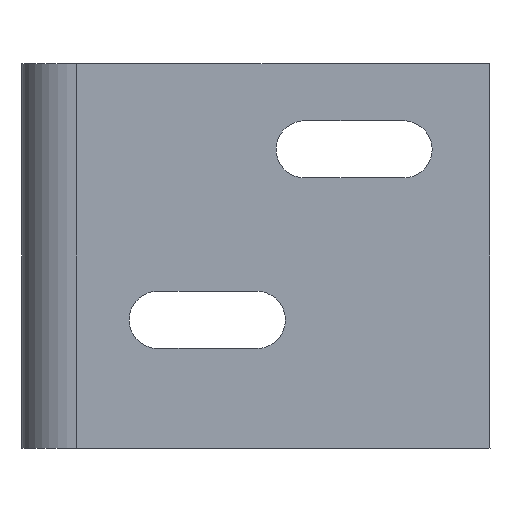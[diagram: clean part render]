
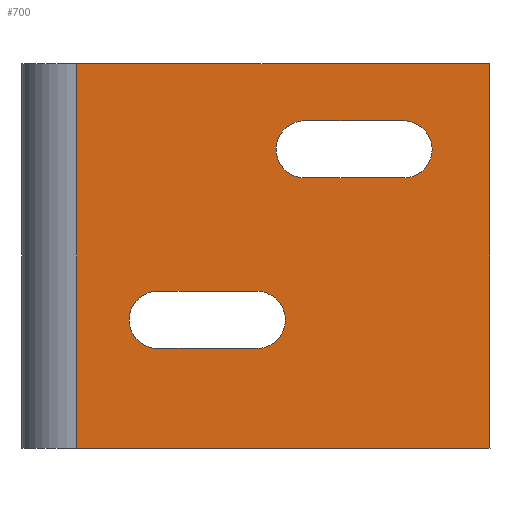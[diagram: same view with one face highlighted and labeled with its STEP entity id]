
A CAD part, left-side view. The second image highlights one B-rep face of the part: STEP entity #700.
In plain terms, the highlighted free-form (B-spline) face has degree [1, 1] with [2, 2] control points.
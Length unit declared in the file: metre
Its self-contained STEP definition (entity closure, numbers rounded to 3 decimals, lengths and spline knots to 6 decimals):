
#22=LINE('',#1048,#80);
#26=LINE('',#1064,#84);
#32=LINE('',#1084,#90);
#38=LINE('',#1113,#96);
#39=LINE('',#1117,#97);
#40=LINE('',#1121,#98);
#41=LINE('',#1125,#99);
#42=LINE('',#1126,#100);
#80=VECTOR('',#815,1.);
#84=VECTOR('',#825,1.);
#90=VECTOR('',#833,1.);
#96=VECTOR('',#849,1.);
#97=VECTOR('',#852,1.);
#98=VECTOR('',#855,1.);
#99=VECTOR('',#858,1.);
#100=VECTOR('',#859,1.);
#133=B_SPLINE_SURFACE_WITH_KNOTS('',1,1,((#1106,#1107),(#1108,#1109)),
 .PLANE_SURF.,.F.,.F.,.F.,(2,2),(2,2),(0.,1.),(0.,1.),.UNSPECIFIED.);
#246=ORIENTED_EDGE('',*,*,#416,.T.);
#247=ORIENTED_EDGE('',*,*,#417,.T.);
#248=ORIENTED_EDGE('',*,*,#418,.T.);
#249=ORIENTED_EDGE('',*,*,#419,.F.);
#250=ORIENTED_EDGE('',*,*,#420,.T.);
#251=ORIENTED_EDGE('',*,*,#421,.T.);
#252=ORIENTED_EDGE('',*,*,#422,.T.);
#253=ORIENTED_EDGE('',*,*,#423,.F.);
#254=ORIENTED_EDGE('',*,*,#406,.F.);
#255=ORIENTED_EDGE('',*,*,#392,.T.);
#256=ORIENTED_EDGE('',*,*,#424,.F.);
#257=ORIENTED_EDGE('',*,*,#399,.T.);
#392=EDGE_CURVE('',#486,#485,#22,.T.);
#399=EDGE_CURVE('',#491,#490,#26,.T.);
#406=EDGE_CURVE('',#486,#490,#32,.T.);
#416=EDGE_CURVE('',#504,#505,#552,.T.);
#417=EDGE_CURVE('',#505,#506,#38,.T.);
#418=EDGE_CURVE('',#506,#507,#553,.T.);
#419=EDGE_CURVE('',#504,#507,#39,.T.);
#420=EDGE_CURVE('',#508,#509,#554,.T.);
#421=EDGE_CURVE('',#509,#510,#40,.T.);
#422=EDGE_CURVE('',#510,#511,#555,.T.);
#423=EDGE_CURVE('',#508,#511,#41,.T.);
#424=EDGE_CURVE('',#491,#485,#42,.T.);
#485=VERTEX_POINT('',#1047);
#486=VERTEX_POINT('',#1049);
#490=VERTEX_POINT('',#1063);
#491=VERTEX_POINT('',#1065);
#504=VERTEX_POINT('',#1111);
#505=VERTEX_POINT('',#1112);
#506=VERTEX_POINT('',#1114);
#507=VERTEX_POINT('',#1116);
#508=VERTEX_POINT('',#1119);
#509=VERTEX_POINT('',#1120);
#510=VERTEX_POINT('',#1122);
#511=VERTEX_POINT('',#1124);
#552=CIRCLE('',#759,0.002604);
#553=CIRCLE('',#760,0.002604);
#554=CIRCLE('',#761,0.002604);
#555=CIRCLE('',#762,0.002604);
#588=EDGE_LOOP('',(#246,#247,#248,#249));
#589=EDGE_LOOP('',(#250,#251,#252,#253));
#590=EDGE_LOOP('',(#254,#255,#256,#257));
#640=FACE_BOUND('',#588,.T.);
#641=FACE_BOUND('',#589,.T.);
#642=FACE_BOUND('',#590,.T.);
#700=ADVANCED_FACE('',(#640,#641,#642),#133,.F.);
#759=AXIS2_PLACEMENT_3D('',#1110,#847,#848);
#760=AXIS2_PLACEMENT_3D('',#1115,#850,#851);
#761=AXIS2_PLACEMENT_3D('',#1118,#853,#854);
#762=AXIS2_PLACEMENT_3D('',#1123,#856,#857);
#815=DIRECTION('',(0.,-1.,0.));
#825=DIRECTION('',(0.,1.,0.));
#833=DIRECTION('',(0.,0.,1.));
#847=DIRECTION('',(1.,0.,0.));
#848=DIRECTION('',(0.,0.,-1.));
#849=DIRECTION('',(0.,1.,0.));
#850=DIRECTION('',(1.,0.,0.));
#851=DIRECTION('',(0.,0.,-1.));
#852=DIRECTION('',(0.,1.,0.));
#853=DIRECTION('',(1.,0.,0.));
#854=DIRECTION('',(0.,0.,-1.));
#855=DIRECTION('',(0.,1.,0.));
#856=DIRECTION('',(1.,0.,0.));
#857=DIRECTION('',(0.,0.,-1.));
#858=DIRECTION('',(0.,1.,0.));
#859=DIRECTION('',(0.,-0.002,-1.));
#1047=CARTESIAN_POINT('',(-0.132318,-0.042585,0.017539));
#1048=CARTESIAN_POINT('',(-0.132318,0.017457,0.017539));
#1049=CARTESIAN_POINT('',(-0.132318,-0.005,0.017539));
#1063=CARTESIAN_POINT('',(-0.132318,-0.005,0.052539));
#1064=CARTESIAN_POINT('',(-0.132318,0.0175,0.052539));
#1065=CARTESIAN_POINT('',(-0.132318,-0.0425,0.052539));
#1084=CARTESIAN_POINT('',(-0.132318,-0.005,0.035039));
#1106=CARTESIAN_POINT('',(-0.132318,-0.044701,0.015789));
#1107=CARTESIAN_POINT('',(-0.132318,-0.044701,0.054289));
#1108=CARTESIAN_POINT('',(-0.132318,-0.003109,0.015789));
#1109=CARTESIAN_POINT('',(-0.132318,-0.003109,0.054289));
#1110=CARTESIAN_POINT('',(-0.132318,-0.034722,0.044741));
#1111=CARTESIAN_POINT('',(-0.132318,-0.034722,0.047345));
#1112=CARTESIAN_POINT('',(-0.132318,-0.034722,0.042137));
#1113=CARTESIAN_POINT('',(-0.132318,-0.030222,0.042137));
#1114=CARTESIAN_POINT('',(-0.132318,-0.025722,0.042137));
#1115=CARTESIAN_POINT('',(-0.132318,-0.025722,0.044741));
#1116=CARTESIAN_POINT('',(-0.132318,-0.025722,0.047345));
#1117=CARTESIAN_POINT('',(-0.132318,-0.030222,0.047345));
#1118=CARTESIAN_POINT('',(-0.132318,-0.021358,0.029229));
#1119=CARTESIAN_POINT('',(-0.132318,-0.021358,0.031833));
#1120=CARTESIAN_POINT('',(-0.132318,-0.021358,0.026625));
#1121=CARTESIAN_POINT('',(-0.132318,-0.016858,0.026625));
#1122=CARTESIAN_POINT('',(-0.132318,-0.012358,0.026625));
#1123=CARTESIAN_POINT('',(-0.132318,-0.012358,0.029229));
#1124=CARTESIAN_POINT('',(-0.132318,-0.012358,0.031833));
#1125=CARTESIAN_POINT('',(-0.132318,-0.016858,0.031833));
#1126=CARTESIAN_POINT('',(-0.132318,-0.042543,0.035039));
